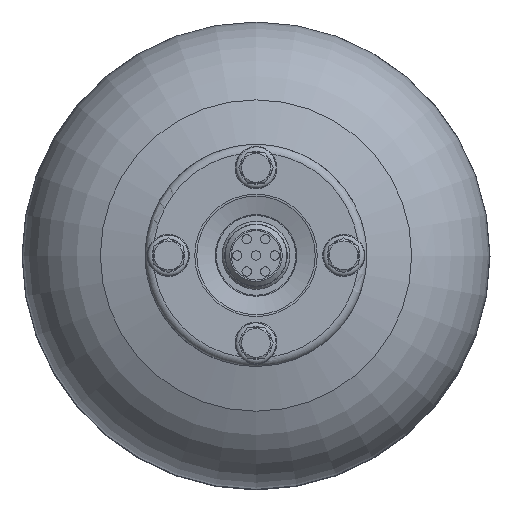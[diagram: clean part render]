
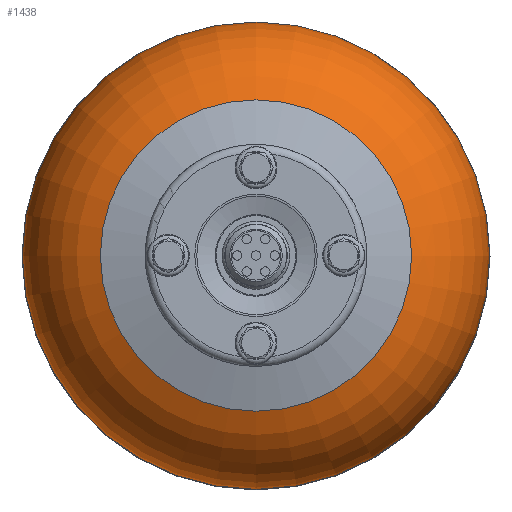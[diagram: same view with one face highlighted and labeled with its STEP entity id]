
A CAD part, top view. The second image highlights one B-rep face of the part: STEP entity #1438.
In plain terms, the highlighted toroidal (fillet/blend) face has major radius 50 mm and minor radius 50 mm.
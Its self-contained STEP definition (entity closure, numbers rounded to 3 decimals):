
#1438=ADVANCED_FACE('',(#4053,#4055),#4057,.T.);
#4053=FACE_BOUND('',#4054,.T.);
#4054=EDGE_LOOP('',(#6154,#6155));
#4055=FACE_BOUND('',#4056,.T.);
#4056=EDGE_LOOP('',(#6156,#6157));
#4057=TOROIDAL_SURFACE('',#4058,50.,50.);
#4058=AXIS2_PLACEMENT_3D('',#4059,#4060,#4061);
#4059=CARTESIAN_POINT('',(0.,0.,67.628));
#4060=DIRECTION('',(0.,0.,1.));
#4061=DIRECTION('',(1.,0.,0.));
#6154=ORIENTED_EDGE('',*,*,#7067,.T.);
#6155=ORIENTED_EDGE('',*,*,#7068,.T.);
#6156=ORIENTED_EDGE('',*,*,#7066,.F.);
#6157=ORIENTED_EDGE('',*,*,#7065,.F.);
#7065=EDGE_CURVE('',#7771,#7772,#7773,.T.);
#7066=EDGE_CURVE('',#7772,#7771,#7774,.T.);
#7067=EDGE_CURVE('',#7775,#7776,#7777,.T.);
#7068=EDGE_CURVE('',#7776,#7775,#7778,.T.);
#7771=VERTEX_POINT('',#10784);
#7772=VERTEX_POINT('',#10785);
#7773=CIRCLE('',#10786,66.667);
#7774=CIRCLE('',#10790,66.667);
#7775=VERTEX_POINT('',#10794);
#7776=VERTEX_POINT('',#10795);
#7777=CIRCLE('',#10796,100.);
#7778=CIRCLE('',#10800,100.);
#10784=CARTESIAN_POINT('',(66.667,0.,114.769));
#10785=CARTESIAN_POINT('',(-66.667,0.,114.769));
#10786=AXIS2_PLACEMENT_3D('',#10787,#10788,#10789);
#10787=CARTESIAN_POINT('',(0.,0.,114.769));
#10788=DIRECTION('',(0.,0.,1.));
#10789=DIRECTION('',(1.,0.,0.));
#10790=AXIS2_PLACEMENT_3D('',#10791,#10792,#10793);
#10791=CARTESIAN_POINT('',(0.,0.,114.769));
#10792=DIRECTION('',(0.,0.,1.));
#10793=DIRECTION('',(-1.,0.,0.));
#10794=CARTESIAN_POINT('',(100.,0.,67.628));
#10795=CARTESIAN_POINT('',(-100.,0.,67.628));
#10796=AXIS2_PLACEMENT_3D('',#10797,#10798,#10799);
#10797=CARTESIAN_POINT('',(0.,0.,67.628));
#10798=DIRECTION('',(0.,0.,1.));
#10799=DIRECTION('',(1.,0.,0.));
#10800=AXIS2_PLACEMENT_3D('',#10801,#10802,#10803);
#10801=CARTESIAN_POINT('',(0.,0.,67.628));
#10802=DIRECTION('',(0.,0.,1.));
#10803=DIRECTION('',(-1.,0.,0.));
